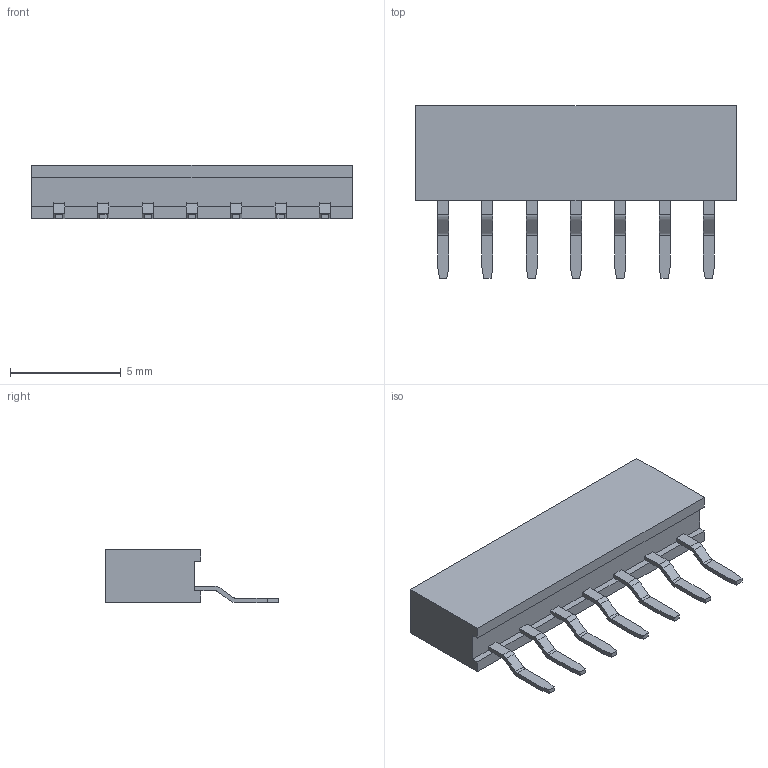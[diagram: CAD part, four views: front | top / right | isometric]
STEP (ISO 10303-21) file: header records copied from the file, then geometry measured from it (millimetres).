
FILE_DESCRIPTION (( 'STEP AP203' ), '1' );
FILE_NAME ('PM200-1-07-WS-4.3-XX(L7.8) (2.00单排 排母 卧贴 塑高4.3-HCTL).STEP', '2026-02-25T07:34:02', ( '' ), ( '' ), 'SwSTEP 2.0', 'SolidWorks 2025', '' );
FILE_SCHEMA (( 'CONFIG_CONTROL_DESIGN' ));
Length unit declared in the file: millimetre
Products named in the file (1): PM200-1-07-WS-4.3-XX(L7.8) (2.00单排 排母 卧贴 塑高4.3-HCTL)
Bounding box: 14.5 x 7.8 x 2.4 mm (x, y, z)
Volume: 143.8 mm3; surface area: 266.1 mm2
Topology: 1 solids, 1 shells, 185 faces, 486 edges, 310 vertices
Faces by surface type: plane 157, cylinder 28
Entity records: 5657 total; most frequent: CARTESIAN_POINT 982, ORIENTED_EDGE 972, DIRECTION 914, EDGE_CURVE 486, VECTOR 430, LINE 430, VERTEX_POINT 310, AXIS2_PLACEMENT_3D 242
